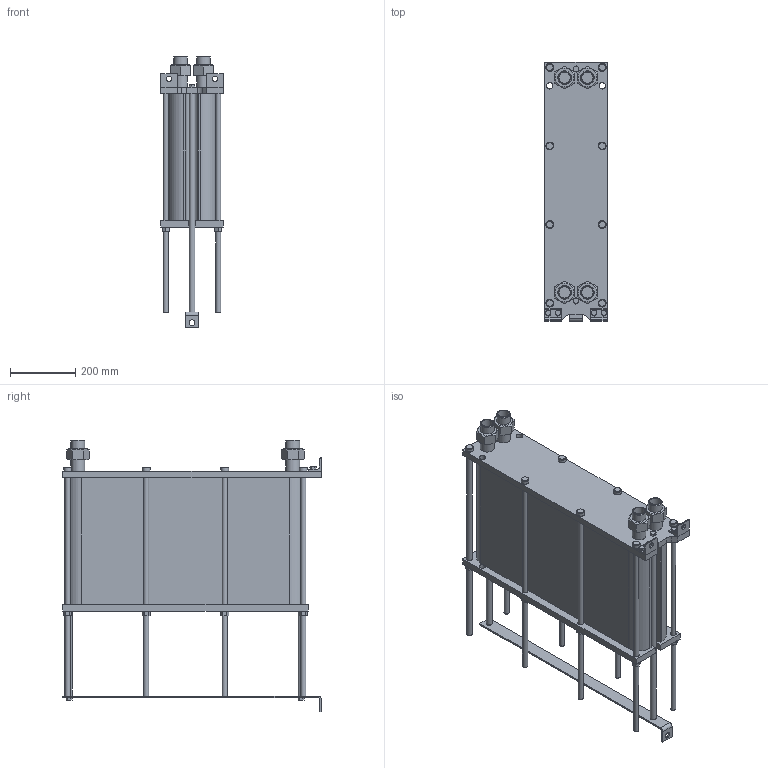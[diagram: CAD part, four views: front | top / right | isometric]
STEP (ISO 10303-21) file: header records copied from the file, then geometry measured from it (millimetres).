
FILE_DESCRIPTION(/* description */ (''),/* implementation_level */ '2;1');
FILE_NAME(/* name */ 'C:\Users\zhuro\Desktop\ENCO\TO\ЭН-008\ЭН-0,5-008-125-1.stp',/* time_stamp */ '2022-06-06T10:57:20+03:00',/* author */ ('zhuro'),/* organization */ (''),/* preprocessor_version */ 'ST-DEVELOPER v18.1',/* originating_system */ 'Autodesk Inventor 2022',/* authorisation */ '');
FILE_SCHEMA (('AUTOMOTIVE_DESIGN { 1 0 10303 214 3 1 1 }'));
Length unit declared in the file: millimetre
Products named in the file (1): ЭН-0,5-008-125-1
Bounding box: 190 x 790 x 829 mm (x, y, z)
Volume: 46576541.7 mm3; surface area: 2232995.6 mm2
Topology: 40 solids, 40 shells, 428 faces, 924 edges, 606 vertices
Faces by surface type: plane 273, cylinder 109, cone 40, torus 6
Full cylindrical faces by diameter (mm): 12 x6, 14 x2, 16 x20, 17 x8, 18 x19, 20 x5, 24 x8, 28 x8, 34.3 x8, 42.3 x8
Entity records: 15843 total; most frequent: CARTESIAN_POINT 5991, DIRECTION 1984, ORIENTED_EDGE 1848, EDGE_CURVE 924, AXIS2_PLACEMENT_3D 715, VERTEX_POINT 606, LINE 554, VECTOR 554
